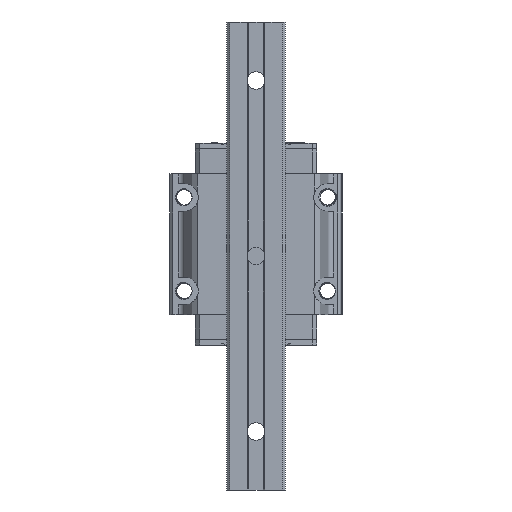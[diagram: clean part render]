
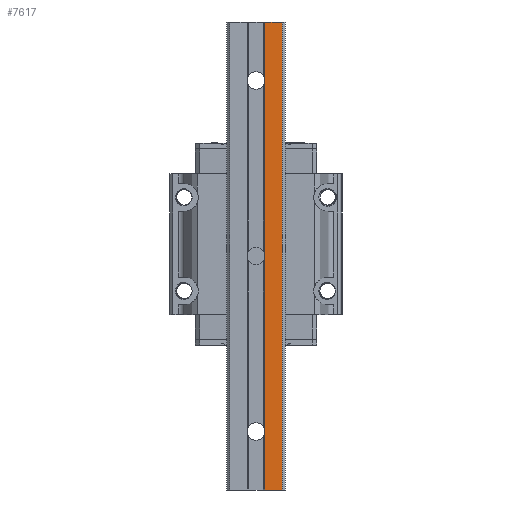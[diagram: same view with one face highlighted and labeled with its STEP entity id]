
A CAD part, front view. The second image highlights one B-rep face of the part: STEP entity #7617.
In plain terms, the highlighted planar face has unit normal (0, -1, 0).
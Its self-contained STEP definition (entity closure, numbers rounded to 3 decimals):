
#7076=PLANE('',#23427);
#7617=ADVANCED_FACE('',(#8721),#7076,.T.);
#8721=FACE_OUTER_BOUND('',#9575,.T.);
#9575=EDGE_LOOP('',(#13820,#13821,#13822,#13823,#13824,#13825,#13826));
#10608=LINE('',#28730,#12088);
#10636=LINE('',#28814,#12116);
#10653=LINE('',#28858,#12133);
#10654=LINE('',#28860,#12134);
#10655=LINE('',#28863,#12135);
#10656=LINE('',#28865,#12136);
#10657=LINE('',#28866,#12137);
#12088=VECTOR('',#24646,1.);
#12116=VECTOR('',#24706,1.);
#12133=VECTOR('',#24755,1.);
#12134=VECTOR('',#24758,1.);
#12135=VECTOR('',#24759,1.);
#12136=VECTOR('',#24760,1.);
#12137=VECTOR('',#24761,1.);
#13820=ORIENTED_EDGE('',*,*,#20524,.T.);
#13821=ORIENTED_EDGE('',*,*,#20525,.T.);
#13822=ORIENTED_EDGE('',*,*,#20526,.T.);
#13823=ORIENTED_EDGE('',*,*,#20459,.F.);
#13824=ORIENTED_EDGE('',*,*,#20523,.F.);
#13825=ORIENTED_EDGE('',*,*,#20501,.T.);
#13826=ORIENTED_EDGE('',*,*,#20527,.T.);
#18772=VERTEX_POINT('',#28729);
#18773=VERTEX_POINT('',#28731);
#18812=VERTEX_POINT('',#28813);
#18813=VERTEX_POINT('',#28815);
#18824=VERTEX_POINT('',#28861);
#18825=VERTEX_POINT('',#28862);
#18826=VERTEX_POINT('',#28864);
#20459=EDGE_CURVE('',#18772,#18773,#10608,.T.);
#20501=EDGE_CURVE('',#18813,#18812,#10636,.T.);
#20523=EDGE_CURVE('',#18813,#18772,#10653,.T.);
#20524=EDGE_CURVE('',#18824,#18825,#10654,.T.);
#20525=EDGE_CURVE('',#18825,#18826,#10655,.T.);
#20526=EDGE_CURVE('',#18826,#18773,#10656,.T.);
#20527=EDGE_CURVE('',#18812,#18824,#10657,.T.);
#23427=AXIS2_PLACEMENT_3D('',#28867,#24762,#24763);
#24646=DIRECTION('',(-1.,0.,0.));
#24706=DIRECTION('',(-1.,0.,0.));
#24755=DIRECTION('',(0.,0.,-1.));
#24758=DIRECTION('',(0.,0.,-1.));
#24759=DIRECTION('',(0.,0.,-1.));
#24760=DIRECTION('',(0.,0.,-1.));
#24761=DIRECTION('',(0.,0.,-1.));
#24762=DIRECTION('',(0.,-1.,0.));
#24763=DIRECTION('',(1.,0.,0.));
#28729=CARTESIAN_POINT('',(9.,-15.5,-60.));
#28730=CARTESIAN_POINT('',(9.,-15.5,-60.));
#28731=CARTESIAN_POINT('',(3.,-15.5,-60.));
#28813=CARTESIAN_POINT('',(3.,-15.5,100.));
#28814=CARTESIAN_POINT('',(9.,-15.5,100.));
#28815=CARTESIAN_POINT('',(9.,-15.5,100.));
#28858=CARTESIAN_POINT('',(9.,-15.5,100.));
#28860=CARTESIAN_POINT('',(3.,-15.5,80.));
#28861=CARTESIAN_POINT('',(3.,-15.5,80.));
#28862=CARTESIAN_POINT('',(3.,-15.5,20.));
#28863=CARTESIAN_POINT('',(3.,-15.5,20.));
#28864=CARTESIAN_POINT('',(3.,-15.5,-40.));
#28865=CARTESIAN_POINT('',(3.,-15.5,-40.));
#28866=CARTESIAN_POINT('',(3.,-15.5,100.));
#28867=CARTESIAN_POINT('',(3.,-15.5,-30.));
